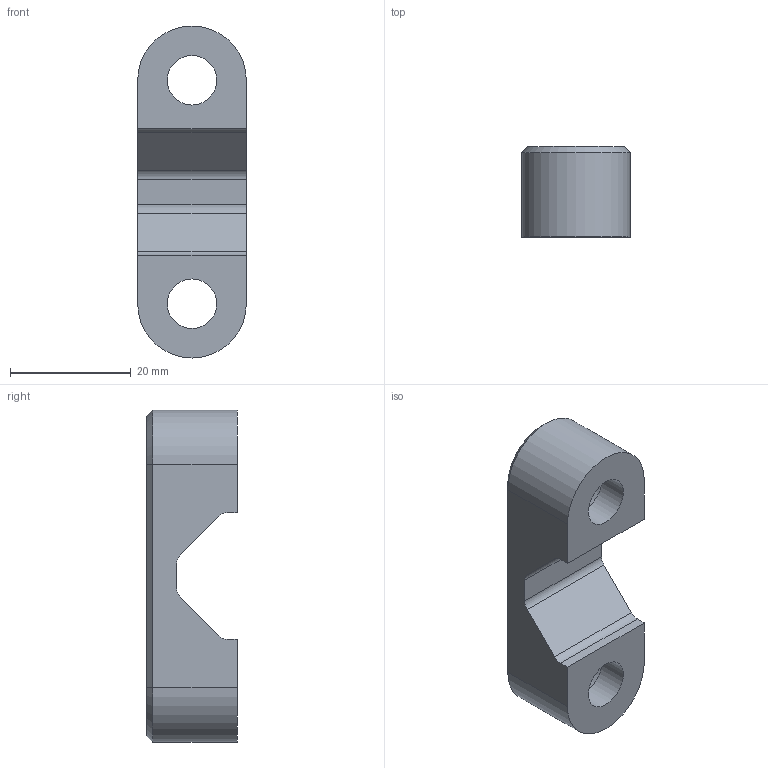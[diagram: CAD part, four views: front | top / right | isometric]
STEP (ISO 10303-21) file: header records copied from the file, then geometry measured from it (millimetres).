
FILE_DESCRIPTION(/* description */ (''),/* implementation_level */ '2;1');
FILE_NAME(/* name */ 'Clamp Plate.step',/* time_stamp */ '2025-12-04T16:01:05+01:00',/* author */ (''),/* organization */ (''),/* preprocessor_version */ 'ST-DEVELOPER v20.1',/* originating_system */ 'Autodesk Translation Framework v14.21.0.0',/* authorisation */ '');
FILE_SCHEMA (('AUTOMOTIVE_DESIGN { 1 0 10303 214 3 1 1 }'));
Length unit declared in the file: millimetre
Products named in the file (1): Clamp Plate
Bounding box: 18 x 15 x 55.05 mm (x, y, z)
Volume: 7380 mm3; surface area: 4513.9 mm2
Topology: 1 solids, 1 shells, 28 faces, 66 edges, 42 vertices
Faces by surface type: plane 14, cylinder 10, cone 4
Full cylindrical faces by diameter (mm): 8.2 x2, 14 x2
Entity records: 854 total; most frequent: DIRECTION 148, CARTESIAN_POINT 137, ORIENTED_EDGE 132, EDGE_CURVE 66, AXIS2_PLACEMENT_3D 53, LINE 42, VECTOR 42, VERTEX_POINT 42
